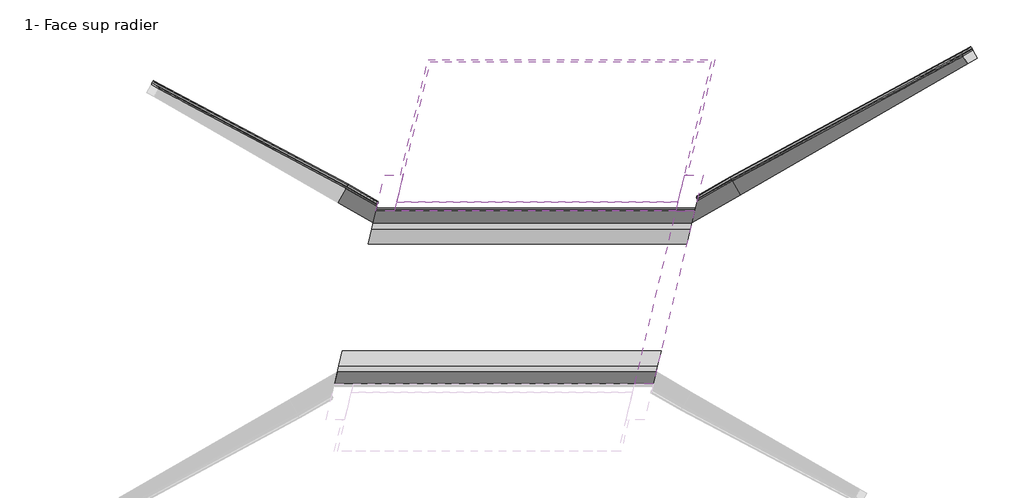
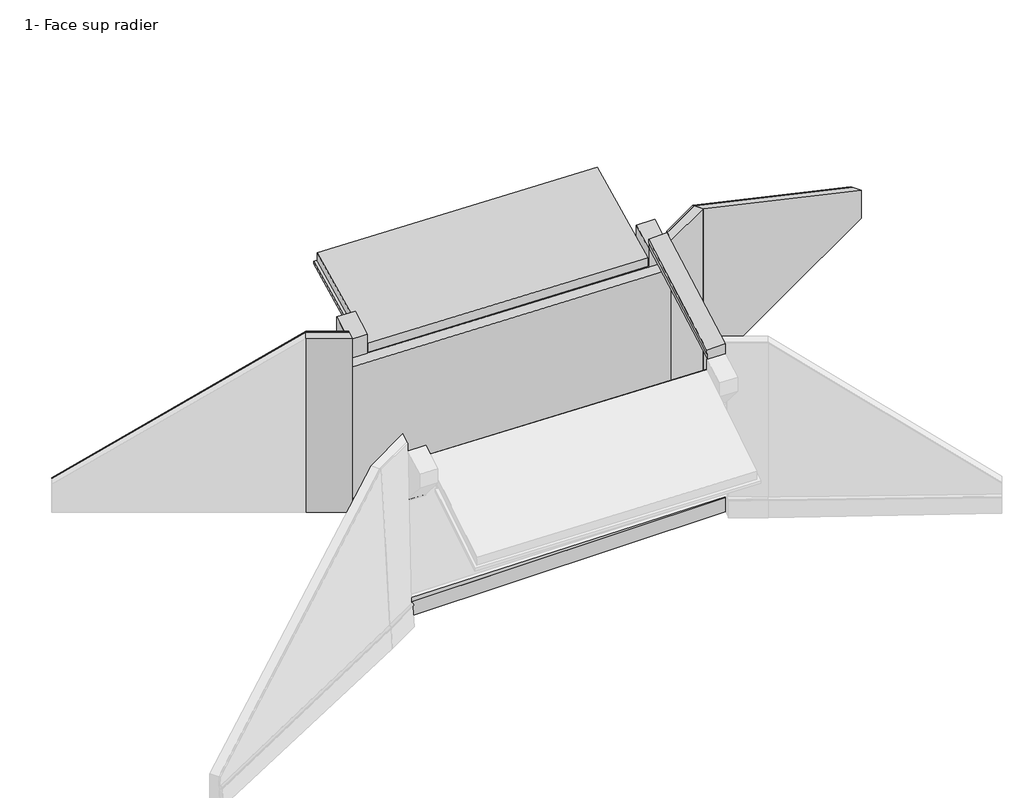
# One storey, part 2 of 2: 21 proxies.
"""IFC4 building model written with IfcOpenShell, lengths in millimetres."""

from ifc_helpers import new_model, si_unit, point, frame, frame_2d, origin, place, context, project, spatial, polyline, circle_curve, ellipse_curve, trimmed, segment, composite_curve, outline, extrude, faceted_brep, transform, mapped, element, save
from ifc_brep_helpers import plane_surface, cylinder_surface, spline_surface, advanced_brep
from components import generic_models_2247c664, generic_models_99b42db8, generic_models_a67ef40e, generic_models_269a9715

model = new_model("IFC4")

# Units and contexts
model_context = context("Model", 3, world=origin())
ifc_project = project(units=[si_unit("LENGTHUNIT", "METRE", prefix="MILLI")], contexts=[model_context])

# Site, building, storey
site = spatial("IfcSite", under=ifc_project)
building = spatial("IfcBuilding", under=site)
storey = spatial("IfcBuildingStorey", under=building, Name="1- Face sup radier", Elevation=700.0)

# Proxies
placement = place(None, origin())
element("IfcBuildingElementProxy", 1, Name="Mur avec fruit - 1 about biais : mur avec fruit - arase rampante ou horizontale - arase avec ou sans pente transversale - 1 about  biais", ObjectType="Mur avec fruit - 1 about biais : mur avec fruit - arase rampante ou horizontale - arase avec ou sans pente transversale - 1 about  biais", at=placement, inside=storey, context=model_context, shape_type="Brep", body=[
    faceted_brep([(7419.3379131, 3698.5704237, 6610.0), (7569.3365527, 3438.7620172, 6619.0), (7569.3365527, 3438.7620172, 700.0), (7271.3642551, 3954.8714167, 700.0), (6063.1513999, 2915.5852432, 6610.0), (5967.1847125, 2513.770406, 6619.0), (5967.1847125, 2513.770406, 700.0), (6157.8225371, 3311.9755801, 700.0)], [[[0, 1, 2, 3]], [[0, 4, 5, 1]], [[1, 5, 6, 2]], [[2, 6, 7, 3]], [[3, 7, 4, 0]], [[4, 7, 6, 5]]]),
])
element("IfcBuildingElementProxy", 2, Name="Mur avec fruit - abouts droits : mur avec fruit - arase rampante ou horizontale - arase avec ou sans pente transversale - abouts droits", ObjectType="Mur avec fruit - abouts droits : mur avec fruit - arase rampante ou horizontale - arase avec ou sans pente transversale - abouts droits", at=placement, inside=storey, context=model_context, shape_type="AdvancedBrep", body=[
    advanced_brep(
    [(15386.7957133, 8298.5287062, 1691.0), (15536.794353, 8038.7202997, 1700.0), (15536.794353, 8038.7202997, 700.0), (15361.7959401, 8341.8301073, 700.0), (7419.3379131, 3698.5704237, 6610.0), (7271.3642551, 3954.8714167, 700.0), (7569.3365527, 3438.7620172, 700.0), (7569.3365527, 3438.7620172, 6619.0)],
    [
        (0, 1),
        (1, 2),
        (2, 3),
        (3, 0),
        (4, 5),
        (5, 6),
        (6, 7),
        (7, 4),
        (7, 1),
        (0, 4),
        (6, 2),
        (5, 3),
    ],
    [
        plane_surface(frame((15455.5450898, 8179.4498532, 1197.75), z_axis=(0.8660280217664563, 0.49999546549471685, 0.0), x_axis=(0.4997706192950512, -0.8656385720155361, 0.02998650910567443))),
        plane_surface(frame((7457.3438184, 3632.7414687, 3657.25), z_axis=(-0.8660280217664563, -0.49999546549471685, 0.0), x_axis=(0.4997706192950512, -0.8656385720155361, 0.02998650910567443))),
        plane_surface(frame((7494.3372329, 3568.6662204, 6614.5), z_axis=(0.3949734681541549, 0.25857308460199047, 0.8815531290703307), x_axis=(-0.4997706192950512, 0.8656385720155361, -0.02998650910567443))),
        plane_surface(frame((7569.3365527, 3438.7620172, 3659.5), z_axis=(0.4999954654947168, -0.8660280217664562, 0.0), x_axis=(0.0, 0.0, 1.0))),
        plane_surface(frame((7420.3504039, 3696.8167169, 700.0), z_axis=(0.0, 0.0, -1.0000000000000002), x_axis=(0.4999954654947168, -0.8660280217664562, 0.0))),
        spline_surface(1, 1, [[(7419.3379131, 3698.5704237, 6610.0), (7271.3642551, 3954.8714167, 700.0)], [(15386.7957133, 8298.5287062, 1691.0), (15361.7959401, 8341.8301073, 700.0)]], [2, 2], [2, 2], [0.0, 1.0], [0.0, 1.0]),
    ],
    [
        (0, [[1, 2, 3, 4]]),
        (1, [[5, 6, 7, 8]]),
        (2, [[9, -1, 10, -8]]),
        (3, [[11, -2, -9, -7]]),
        (4, [[12, -3, -11, -6]]),
        (5, [[-10, -4, -12, -5]]),
    ],
),
])
element("IfcBuildingElementProxy", 3, Name="Mur avec fruit - 1 about biais : mur avec fruit - arase rampante ou horizontale - arase avec ou sans pente transversale - 1 about  biais", ObjectType="Mur avec fruit - 1 about biais : mur avec fruit - arase rampante ou horizontale - arase avec ou sans pente transversale - 1 about  biais", at=placement, inside=storey, context=model_context, shape_type="Brep", body=[
    faceted_brep([(-5786.377768, 3445.2353113, 6892.0), (-5631.354174, 3713.7472994, 700.0), (-5936.3764077, 3185.4269047, 700.0), (-5936.3764077, 3185.4269047, 6901.0), (-4767.2385783, 2510.4330263, 6901.0), (-4694.5302661, 2814.8644847, 6892.0), (-4767.2385783, 2510.4330263, 700.0), (-4619.3862255, 3129.4943968, 700.0)], [[[0, 1, 2, 3]], [[0, 3, 4, 5]], [[3, 2, 6, 4]], [[2, 1, 7, 6]], [[1, 0, 5, 7]], [[5, 4, 6, 7]]]),
])
element("IfcBuildingElementProxy", 4, Name="Mur drapeau 1 : mur drapeau 1", ObjectType="Mur drapeau 1 : mur drapeau 1", at=placement, inside=storey, context=model_context, shape_type="Brep", body=[
    faceted_brep([(5421.9915557, 2900.0, 6285.5168356), (5712.3661255, 4115.8053336, 6274.0339057), (5712.3661255, 4115.8053336, 5774.0339057), (5421.9915557, 2900.0, 4524.0339057), (6038.8666255, 2900.0, 6269.249243), (6038.8666255, 2900.0, 4507.7663131), (6329.2411952, 4115.8053336, 5757.7663131), (6329.2411952, 4115.8053336, 6257.7663131)], [[[0, 1, 2, 3]], [[4, 5, 6, 7]], [[5, 4, 0, 3]], [[6, 5, 3, 2]], [[7, 6, 2, 1]], [[4, 7, 1, 0]]]),
])
element("IfcBuildingElementProxy", 5, Name="Mur drapeau 4 : mur drapeau 4", ObjectType="Mur drapeau 4 : mur drapeau 4", at=placement, inside=storey, context=model_context, shape_type="Brep", body=[
    faceted_brep([(-4036.7595141, 2900.0, 6534.9532549), (-4036.7595141, 2900.0, 4773.1088122), (-3746.3849443, 4115.8053336, 6023.1088122), (-3746.3849443, 4115.8053336, 6523.1088122), (-4653.6345839, 2900.0, 6551.2208475), (-4363.2600141, 4115.8053336, 6539.3764048), (-4363.2600141, 4115.8053336, 6039.3764048), (-4653.6345839, 2900.0, 4789.3764048)], [[[0, 1, 2, 3]], [[4, 5, 6, 7]], [[4, 7, 1, 0]], [[7, 6, 2, 1]], [[6, 5, 3, 2]], [[5, 4, 0, 3]]]),
])
element("IfcBuildingElementProxy", 6, Name="Corbeau W : corbeau W", ObjectType="Corbeau W : corbeau W", at=placement, inside=storey, context=model_context, shape_type="Brep", body=[
    faceted_brep([(5473.6414889, 3200.0, 5314.0504808), (5401.9915557, 2900.0, 5015.8356628), (-4016.7595141, 2900.0, 5264.2172435), (-3945.1095809, 3200.0, 5562.4320614), (5473.6414889, 3200.0, 5614.1547769), (-3945.1095809, 3200.0, 5862.5363575), (5401.9915557, 2900.0, 5616.0442549), (-4016.7595141, 2900.0, 5864.4258356)], [[[0, 1, 2, 3]], [[4, 0, 3, 5]], [[6, 4, 5, 7]], [[1, 6, 7, 2]], [[1, 0, 4, 6]], [[3, 2, 7, 5]]]),
])
element("IfcBuildingElementProxy", 7, Name="Béton de propreté DT W : béton de propreté DT W", ObjectType="Béton de propreté DT W : béton de propreté DT W", at=placement, inside=storey, context=model_context, shape_type="Brep", body=[
    faceted_brep([(5473.6414889, 3200.0, 5633.606428), (5692.3661255, 4115.8053336, 5591.193499), (5795.1786371, 4115.8053336, 5588.4822336), (6720.5231434, 7990.2451206, 5409.0485335), (-2903.8529497, 7990.2451206, 5662.852645), (-3829.197456, 4115.8053336, 5842.2863451), (-3726.3849443, 4115.8053336, 5839.5750796), (-3945.1095809, 3200.0, 5881.9880086), (5692.3661255, 4115.8053336, 5491.0787378), (5473.6414889, 3200.0, 5533.4916668), (-3726.3849443, 4115.8053336, 5739.4603185), (-3945.1095809, 3200.0, 5781.8732475), (-3829.197456, 4115.8053336, 5742.1715839), (-2903.8529497, 7990.2451206, 5562.7378838), (6720.5231434, 7990.2451206, 5308.9337723), (5795.1786371, 4115.8053336, 5488.3674724)], [[[0, 1, 2, 3, 4, 5, 6, 7]], [[8, 1, 0, 9]], [[6, 10, 11, 7]], [[9, 0, 7, 11]], [[8, 9, 11, 10, 12, 13, 14, 15]], [[3, 14, 13, 4]], [[2, 15, 14, 3]], [[1, 8, 15, 2]], [[12, 5, 4, 13]], [[5, 12, 10, 6]]]),
])
element("IfcBuildingElementProxy", 8, Name="Complexe drainant M4 : complexe drainant M4", ObjectType="Complexe drainant M4 : complexe drainant M4", at=placement, inside=storey, context=model_context, shape_type="SolidModel", body=[
    faceted_brep([(-5786.377768, 3445.2353113, 6892.0), (-5761.3779948, 3488.5367124, 6892.0), (-5626.2831444, 3722.5306865, 1496.0), (-5651.2829176, 3679.2292854, 1496.0), (-4694.5302661, 2814.8644847, 6892.0), (-4682.4122141, 2865.603061, 6892.0), (-4617.0748655, 3139.172117, 1508.088526), (-4629.1947898, 3088.4257014, 1508.2428037)], [[[0, 1, 2, 3]], [[1, 0, 4, 5]], [[2, 1, 5, 6]], [[3, 2, 6, 7]], [[0, 3, 7, 4]], [[5, 4, 7, 6]]]),
    advanced_brep(
    [(-12194.9851291, 7145.2017559, 1691.0), (-12169.9853558, 7188.503157, 1691.0), (-12163.1993427, 7200.2570187, 1422.0), (-12188.199116, 7156.9556176, 1422.0), (-5786.377768, 3445.2353113, 6892.0), (-5651.2829176, 3679.2292854, 1496.0), (-5626.2831444, 3722.5306865, 1496.0), (-5761.3779948, 3488.5367124, 6892.0)],
    [
        (0, 1),
        (1, 2),
        (2, 3),
        (3, 0),
        (4, 5),
        (5, 6),
        (6, 7),
        (7, 4),
        (7, 1),
        (0, 4),
        (6, 2),
        (5, 3),
    ],
    [
        plane_surface(frame((-12179.0922359, 7172.7293873, 1556.5), z_axis=(-0.8660280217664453, 0.4999954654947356, 0.0), x_axis=(0.4999954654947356, 0.8660280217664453, 0.0))),
        plane_surface(frame((-5706.3304562, 3583.8829989, 4194.0), z_axis=(0.866028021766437, -0.49999546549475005, 0.0), x_axis=(0.49999546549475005, 0.866028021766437, 0.0))),
        plane_surface(frame((-5773.8778814, 3466.8860118, 6892.0), z_axis=(-0.4979830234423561, 0.2875071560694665, 0.8181396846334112), x_axis=(0.4999954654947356, 0.8660280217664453, 0.0))),
        spline_surface(1, 1, [[(-5761.3779948, 3488.5367124, 6892.0), (-12169.9853558, 7188.503157, 1691.0)], [(-5626.2831444, 3722.5306865, 1496.0), (-12163.1993427, 7200.2570187, 1422.0)]], [2, 2], [2, 2], [0.0, 1.0], [0.0, 1.0]),
        plane_surface(frame((-5638.783031, 3700.879986, 1496.0), z_axis=(0.008659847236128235, -0.004999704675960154, -0.9999500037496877), x_axis=(-0.4999954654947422, -0.8660280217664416, 0.0))),
        spline_surface(1, 1, [[(-5651.2829176, 3679.2292854, 1496.0), (-12188.199116, 7156.9556176, 1422.0)], [(-5786.377768, 3445.2353113, 6892.0), (-12194.9851291, 7145.2017559, 1691.0)]], [2, 2], [2, 2], [0.0, 1.0], [0.0, 1.0]),
    ],
    [
        (0, [[1, 2, 3, 4]]),
        (1, [[5, 6, 7, 8]]),
        (2, [[-8, 9, -1, 10]]),
        (3, [[-7, 11, -2, -9]]),
        (4, [[-6, 12, -3, -11]]),
        (5, [[-5, -10, -4, -12]]),
    ],
),
])
element("IfcBuildingElementProxy", 9, Name="Complexe drainant P W : complexe drainant P W", ObjectType="Complexe drainant P W : complexe drainant P W", at=placement, inside=storey, context=model_context, shape_type="SweptSolid", body=[
    extrude(outline(polyline([(4507.7663131, 6038.8666255), (4524.0339057, 5421.9915557), (5015.3082435, 5421.9915557), (5264.7446628, -4036.7595141), (4773.1088122, -4036.7595141), (4789.3764048, -4653.6345839), (1510.0, -4653.6345839), (1400.0, 6038.8666255), (4507.7663131, 6038.8666255)])), frame((0.0, 2900.0, 0.0), z_axis=(0.0, 1.0, 0.0), x_axis=(0.0, 0.0, 1.0)), (0.0, 0.0, 1.0), 50.0),
])
element("IfcBuildingElementProxy", 10, Name="Complexe drainant M1 : complexe drainant M1", ObjectType="Complexe drainant M1 : complexe drainant M1", at=placement, inside=storey, context=model_context, shape_type="SolidModel", body=[
    advanced_brep(
    [(7419.3379131, 3698.5704237, 6610.0), (7394.3381398, 3741.8718248, 6610.0), (7263.4152536, 3968.6396577, 1381.0), (7288.4150268, 3925.3382566, 1381.0), (15386.7957133, 8298.5287062, 1691.0), (15376.6545339, 8316.0939567, 1289.0), (15351.6547606, 8359.3953578, 1289.0), (15361.7959401, 8341.8301073, 1691.0)],
    [
        (0, 1),
        (1, 2),
        (2, 3),
        (3, 0),
        (4, 5),
        (5, 6),
        (6, 7),
        (7, 4),
        (7, 1),
        (0, 4),
        (6, 2),
        (5, 3),
    ],
    [
        plane_surface(frame((7341.3765833, 3833.6050407, 3995.5), z_axis=(-0.8660280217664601, -0.49999546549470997, 0.0), x_axis=(-0.49999546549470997, 0.8660280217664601, 0.0))),
        plane_surface(frame((15369.225237, 8328.962032, 1490.0), z_axis=(0.8660280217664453, 0.4999954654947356, 0.0), x_axis=(-0.4999954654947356, 0.8660280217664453, 0.0))),
        plane_surface(frame((15374.2958267, 8320.1794068, 1691.0), z_axis=(0.4083394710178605, 0.2357520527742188, 0.8818615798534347), x_axis=(-0.49999546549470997, 0.8660280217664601, 0.0))),
        spline_surface(1, 1, [[(15361.7959401, 8341.8301073, 1691.0), (7394.3381398, 3741.8718248, 6610.0)], [(15351.6547606, 8359.3953578, 1289.0), (7263.4152536, 3968.6396577, 1381.0)]], [2, 2], [2, 2], [0.0, 1.0], [0.0, 1.0]),
        plane_surface(frame((15364.1546472, 8337.7446573, 1289.0), z_axis=(-0.008659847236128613, -0.004999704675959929, -0.9999500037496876), x_axis=(0.4999954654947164, -0.8660280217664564, 0.0))),
        spline_surface(1, 1, [[(15376.6545339, 8316.0939567, 1289.0), (7288.4150268, 3925.3382566, 1381.0)], [(15386.7957133, 8298.5287062, 1691.0), (7419.3379131, 3698.5704237, 6610.0)]], [2, 2], [2, 2], [0.0, 1.0], [0.0, 1.0]),
    ],
    [
        (0, [[1, 2, 3, 4]]),
        (1, [[5, 6, 7, 8]]),
        (2, [[-8, 9, -1, 10]]),
        (3, [[-7, 11, -2, -9]]),
        (4, [[-6, 12, -3, -11]]),
        (5, [[-5, -10, -4, -12]]),
    ],
),
    faceted_brep([(7419.3379131, 3698.5704237, 6610.0), (7288.4150268, 3925.3382566, 1381.0), (7263.4152536, 3968.6396577, 1381.0), (7394.3381398, 3741.8718248, 6610.0), (6079.1458478, 2982.5543827, 6610.0), (6063.1513999, 2915.5852432, 6610.0), (6162.6990161, 3332.3935153, 1394.0573268), (6146.6967768, 3265.3917531, 1394.5437162)], [[[0, 1, 2, 3]], [[0, 3, 4, 5]], [[3, 2, 6, 4]], [[2, 1, 7, 6]], [[1, 0, 5, 7]], [[5, 4, 6, 7]]]),
])
element("IfcBuildingElementProxy", 11, Name="Drain P W : drain P W", ObjectType="Drain P W : drain P W", at=placement, inside=storey, context=model_context, shape_type="SweptSolid", body=[
    extrude(outline(composite_curve([segment(trimmed(circle_curve(frame_2d((-50.0, -50.0)), 48.0), [point((-50.0, -98.0))], [point((-50.0, -2.0))], False, "CARTESIAN"), True, "CONTINUOUS"), segment(trimmed(circle_curve(frame_2d((-50.0, -50.0)), 48.0), [point((-50.0, -2.0))], [point((-50.0, -98.0))], False, "CARTESIAN"), True, "CONTINUOUS")], self_intersect=False)), frame((6038.8666255, 3000.0, 1300.0), z_axis=(-0.9999470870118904, 0.0, 0.010287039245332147), x_axis=(0.0, 1.0, 0.0)), (0.0, 0.0, 1.0), 10693.0670115),
])
generic_models_shape = generic_models_2247c664(model_context)
element("IfcBuildingElementProxy", 12, Name="Gousset inférieur E : gousset inférieur E", ObjectType="Gousset inférieur E : gousset inférieur E", at=placement, inside=storey, context=model_context, shape_type="MappedRepresentation", body=[
    mapped(generic_models_shape, transform((0.0, 0.0, 0.0), x_axis=(1.0, 0.0, 0.0), y_axis=(0.0, 1.0, 0.0), z_axis=(0.0, 0.0, 1.0))),
])
element("IfcBuildingElementProxy", 13, Name="Gousset inférieur W : gousset inférieur W", ObjectType="Gousset inférieur W : gousset inférieur W", at=placement, inside=storey, context=model_context, shape_type="MappedRepresentation", body=[
    mapped(generic_models_shape, transform((0.0, 0.0, 0.0), x_axis=(-1.0, 0.0, 0.0), y_axis=(0.0, -1.0, 0.0), z_axis=(0.0, 0.0, 1.0))),
])
generic_models_2_shape = generic_models_99b42db8(model_context)
element("IfcBuildingElementProxy", 14, Name="Piédroit W : piédroit W", ObjectType="Piédroit W : piédroit W", at=placement, inside=storey, context=model_context, shape_type="MappedRepresentation", body=[
    mapped(generic_models_2_shape, transform((0.0, 0.0, 0.0), x_axis=(1.0, 0.0, 0.0), y_axis=(0.0, 1.0, 0.0), z_axis=(0.0, 0.0, 1.0))),
])
generic_models_3_shape = generic_models_a67ef40e(model_context)
element("IfcBuildingElementProxy", 15, Name="Piédroit E : piédroit E", ObjectType="Piédroit E : piédroit E", at=placement, inside=storey, context=model_context, shape_type="MappedRepresentation", body=[
    mapped(generic_models_3_shape, transform((0.0, 0.0, 0.0), x_axis=(1.0, 0.0, 0.0), y_axis=(0.0, 1.0, 0.0), z_axis=(0.0, 0.0, 1.0))),
])
generic_models_4_shape = generic_models_269a9715(model_context)
element("IfcBuildingElementProxy", 16, Name="Contre-corniche N : contre-corniche N", ObjectType="Contre-corniche N : contre-corniche N", at=placement, inside=storey, context=model_context, shape_type="MappedRepresentation", body=[
    mapped(generic_models_4_shape, transform((0.0, 0.0, 0.0), x_axis=(1.0, 0.0, 0.0), y_axis=(0.0, 1.0, 0.0), z_axis=(0.0, 0.0, 1.0))),
])
element("IfcBuildingElementProxy", 17, Name="Assise drain M1 : assise drain M1", ObjectType="Assise drain M1 : assise drain M1", at=placement, inside=storey, context=model_context, shape_type="SolidModel", body=[
    faceted_brep([(7285.9112424, 3929.6749908, 1281.0), (7271.3642551, 3954.8714167, 700.0), (7221.3647085, 4041.4742189, 700.0), (7235.9116959, 4016.277793, 1281.0), (6122.7006164, 3372.8092669, 1294.2055478), (6157.8225371, 3311.9755801, 1294.2055478), (6148.2994376, 3272.1021326, 1294.4950031), (6107.8229906, 3398.5783822, 700.0), (6157.8225371, 3311.9755801, 700.0)], [[[0, 1, 2, 3]], [[0, 3, 4, 5, 6]], [[3, 2, 7, 4]], [[2, 1, 8, 7]], [[1, 0, 6, 8]], [[6, 5, 8]], [[5, 4, 7, 8]]]),
    advanced_brep(
    [(7285.9112424, 3929.6749908, 1281.0), (7235.9116959, 4016.277793, 1281.0), (7221.3647085, 4041.4742189, 700.0), (7271.3642551, 3954.8714167, 700.0), (15374.1318524, 8320.463422, 1189.0), (15324.1323059, 8407.0662242, 1189.0), (15311.7963935, 8428.4329095, 700.0), (15361.7959401, 8341.8301073, 700.0)],
    [
        (0, 1),
        (1, 2),
        (2, 3),
        (3, 0),
        (4, 5),
        (5, 1),
        (0, 4),
        (5, 6),
        (6, 2),
        (6, 7),
        (7, 3),
        (7, 4),
    ],
    [
        plane_surface(frame((7253.6379755, 3985.5746049, 990.5), z_axis=(-0.866028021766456, -0.4999954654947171, 0.0), x_axis=(-0.4999954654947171, 0.866028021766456, 0.0))),
        plane_surface(frame((15349.1320791, 8363.7648231, 1189.0), z_axis=(0.008659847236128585, 0.004999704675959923, 0.9999500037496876), x_axis=(-0.4999954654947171, 0.866028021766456, 0.0))),
        spline_surface(1, 1, [[(15324.1323059, 8407.0662242, 1189.0), (7235.9116959, 4016.277793, 1281.0)], [(15311.7963935, 8428.4329095, 700.0), (7221.3647085, 4041.4742189, 700.0)]], [2, 2], [2, 2], [0.0, 1.0], [0.0, 1.0]),
        plane_surface(frame((15336.7961668, 8385.1315084, 700.0), z_axis=(0.0, 0.0, -1.0), x_axis=(0.49999546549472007, -0.8660280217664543, 0.0))),
        spline_surface(1, 1, [[(15361.7959401, 8341.8301073, 700.0), (7271.3642551, 3954.8714167, 700.0)], [(15374.1318524, 8320.463422, 1189.0), (7285.9112424, 3929.6749908, 1281.0)]], [2, 2], [2, 2], [0.0, 1.0], [0.0, 1.0]),
        plane_surface(frame((15455.5450898, 8179.4498532, 1197.75), z_axis=(0.8660280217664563, 0.49999546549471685, 0.0), x_axis=(0.4997706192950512, -0.8656385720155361, 0.02998650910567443))),
    ],
    [
        (0, [[1, 2, 3, 4]]),
        (1, [[5, 6, -1, 7]]),
        (2, [[8, 9, -2, -6]]),
        (3, [[10, 11, -3, -9]]),
        (4, [[12, -7, -4, -11]]),
        (5, [[-12, -10, -8, -5]]),
    ],
),
])
element("IfcBuildingElementProxy", 18, Name="Assise drain M4 : assise drain M4", ObjectType="Assise drain M4 : assise drain M4", at=placement, inside=storey, context=model_context, shape_type="SolidModel", body=[
    faceted_brep([(-5648.7793066, 3683.5657194, 1396.0), (-5598.7797601, 3770.1685215, 1396.0), (-5581.3546274, 3800.3501016, 700.0), (-5631.354174, 3713.7472994, 700.0), (-4627.9810358, 3093.5077189, 1408.2273535), (-4619.3862255, 3129.4943968, 1408.1179479), (-4587.1151979, 3185.3901321, 1408.1179479), (-4569.386679, 3216.097199, 700.0), (-4619.3862255, 3129.4943968, 700.0)], [[[0, 1, 2, 3]], [[1, 0, 4, 5, 6]], [[2, 1, 6, 7]], [[3, 2, 7, 8]], [[0, 3, 8, 4]], [[5, 8, 7, 6]], [[8, 5, 4]]]),
    advanced_brep(
    [(-12185.6764345, 7161.3250829, 1322.0), (-12135.676888, 7247.9278851, 1322.0), (-12119.9858093, 7275.1059592, 700.0), (-12169.9853558, 7188.503157, 700.0), (-5648.7793066, 3683.5657194, 1396.0), (-5631.354174, 3713.7472994, 700.0), (-5581.3546274, 3800.3501016, 700.0), (-5598.7797601, 3770.1685215, 1396.0)],
    [
        (0, 1),
        (1, 2),
        (2, 3),
        (3, 0),
        (4, 5),
        (5, 6),
        (6, 7),
        (7, 4),
        (7, 1),
        (0, 4),
        (6, 2),
        (5, 3),
    ],
    [
        plane_surface(frame((-12152.8311219, 7218.215521, 1011.0), z_axis=(-0.8660280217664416, 0.4999954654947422, 0.0), x_axis=(0.4999954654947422, 0.8660280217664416, 0.0))),
        plane_surface(frame((-5615.066967, 3741.9579105, 1048.0), z_axis=(0.8660280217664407, -0.49999546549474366, 0.0), x_axis=(0.49999546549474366, 0.8660280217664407, 0.0))),
        plane_surface(frame((-5623.7795333, 3726.8671205, 1396.0), z_axis=(-0.008659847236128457, 0.004999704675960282, 0.9999500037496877), x_axis=(0.4999954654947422, 0.8660280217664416, 0.0))),
        spline_surface(1, 1, [[(-5598.7797601, 3770.1685215, 1396.0), (-12135.676888, 7247.9278851, 1322.0)], [(-5581.3546274, 3800.3501016, 700.0), (-12119.9858093, 7275.1059592, 700.0)]], [2, 2], [2, 2], [0.0, 1.0], [0.0, 1.0]),
        plane_surface(frame((-5606.3544007, 3757.0487005, 700.0), z_axis=(0.0, 0.0, -1.0), x_axis=(-0.4999954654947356, -0.8660280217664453, 0.0))),
        spline_surface(1, 1, [[(-5631.354174, 3713.7472994, 700.0), (-12169.9853558, 7188.503157, 700.0)], [(-5648.7793066, 3683.5657194, 1396.0), (-12185.6764345, 7161.3250829, 1322.0)]], [2, 2], [2, 2], [0.0, 1.0], [0.0, 1.0]),
    ],
    [
        (0, [[1, 2, 3, 4]]),
        (1, [[5, 6, 7, 8]]),
        (2, [[-8, 9, -1, 10]]),
        (3, [[-7, 11, -2, -9]]),
        (4, [[-6, 12, -3, -11]]),
        (5, [[-5, -10, -4, -12]]),
    ],
),
])
element("IfcBuildingElementProxy", 19, Name="Dalle de transition W : dalle de transition W", ObjectType="Dalle de transition W : dalle de transition W", at=placement, inside=storey, context=model_context, shape_type="Brep", body=[
    faceted_brep([(6597.5912524, 7906.0047936, 5416.2164529), (5404.3798868, 2910.0, 5647.5922582), (-4014.371183, 2910.0, 5895.9738388), (-2821.1598174, 7906.0047936, 5664.5980335), (6600.4549597, 7917.9952051, 5716.0054345), (-2818.2961101, 7917.9952051, 5964.3870151), (5407.2435941, 2921.9904115, 5947.3812398), (-4011.5074757, 2921.9904115, 6195.7628204)], [[[0, 1, 2, 3]], [[4, 0, 3, 5]], [[6, 4, 5, 7]], [[1, 6, 7, 2]], [[1, 0, 4, 6]], [[3, 2, 7, 5]]]),
])
element("IfcBuildingElementProxy", 20, Name="Drain M1 : drain M1", ObjectType="Drain M1 : drain M1", at=placement, inside=storey, context=model_context, shape_type="AdvancedBrep", body=[
    advanced_brep(
    [(6148.7528358, 3272.3438145, 1344.4923662), (6098.7087642, 3358.9208952, 1344.4932421), (7286.3585912, 3929.913176, 1330.9974349), (7237.4729268, 4017.1598498, 1330.984569), (15374.5730603, 8320.6982735, 1238.9975047), (15326.8633086, 8408.5833058, 1238.9712633)],
    [
        (0, 1, circle_curve(frame((6123.7308, 3315.6323548, 1344.4928042), z_axis=(-0.8657251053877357, -0.5004144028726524, 0.010269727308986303), x_axis=(-0.5004407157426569, 0.8657708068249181, 8.758289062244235e-06)), 50.0)),
        (1, 0, circle_curve(frame((6123.7308, 3315.6323548, 1344.4928042), z_axis=(-0.8657251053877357, -0.5004144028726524, 0.010269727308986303), x_axis=(-0.5004407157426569, 0.8657708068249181, 8.758289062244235e-06)), 50.0)),
        (0, 2),
        (2, 3, ellipse_curve(frame((7261.915759, 3973.5365129, 1330.9910019), z_axis=(-0.8723444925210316, -0.48878665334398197, 0.010133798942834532), x_axis=(0.4888766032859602, -0.8722930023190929, 0.010226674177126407)), 50.0044764, 50.0)),
        (3, 1),
        (3, 2, ellipse_curve(frame((7261.915759, 3973.5365129, 1330.9910019), z_axis=(-0.8723444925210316, -0.48878665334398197, 0.010133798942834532), x_axis=(0.4888766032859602, -0.8722930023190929, 0.010226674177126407)), 50.0044764, 50.0)),
        (4, 5, circle_curve(frame((15350.7181845, 8364.6407897, 1238.984384), z_axis=(0.8788076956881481, 0.477071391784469, -0.009996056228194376), x_axis=(-0.47709751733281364, 0.8788503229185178, -0.0002624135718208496)), 50.0)),
        (5, 4, circle_curve(frame((15350.7181845, 8364.6407897, 1238.984384), z_axis=(0.8788076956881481, 0.477071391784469, -0.009996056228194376), x_axis=(-0.47709751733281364, 0.8788503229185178, -0.0002624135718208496)), 50.0)),
        (2, 4),
        (5, 3),
    ],
    [
        plane_surface(frame((6148.2994376, 3272.1021326, 1294.4950031), z_axis=(-0.8657251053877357, -0.5004144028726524, 0.010269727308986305), x_axis=(0.008895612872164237, 0.005131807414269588, 0.9999472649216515))),
        cylinder_surface(frame((6123.7308, 3315.6323548, 1344.4928042), z_axis=(-0.8657251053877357, -0.5004144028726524, 0.010269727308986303), x_axis=(-0.5004407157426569, 0.8657708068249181, 8.758289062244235e-06)), 50.0),
        plane_surface(frame((15374.1318524, 8320.463422, 1189.0), z_axis=(0.8788076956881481, 0.477071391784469, -0.009996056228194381), x_axis=(0.008659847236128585, 0.004999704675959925, 0.9999500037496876))),
        cylinder_surface(frame((7262.4975745, 3973.8523585, 1330.984384), z_axis=(-0.8788076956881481, -0.477071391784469, 0.009996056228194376), x_axis=(-0.47709751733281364, 0.8788503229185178, -0.0002624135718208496)), 50.0),
    ],
    [
        (0, [[1, 2]]),
        (1, [[-1, 3, 4, 5]]),
        (1, [[-2, -5, 6, -3]]),
        (2, [[7, 8]]),
        (3, [[-4, 9, -8, 10]]),
        (3, [[-6, -10, -7, -9]]),
    ],
),
])
element("IfcBuildingElementProxy", 21, Name="Drain M4 : drain M4", ObjectType="Drain M4 : drain M4", at=placement, inside=storey, context=model_context, shape_type="AdvancedBrep", body=[
    advanced_brep(
    [(-12186.1094269, 7161.5750681, 1371.9975002), (-12139.1406009, 7249.8582952, 1371.9628512), (-5649.2204746, 3683.8200542, 1445.9974076), (-5600.6988002, 3771.277135, 1445.9803375), (-4628.4302214, 3093.7666882, 1458.2246651), (-4578.3857217, 3180.3435214, 1458.2258357)],
    [
        (0, 1, circle_curve(frame((-12162.6250139, 7205.7166817, 1371.9801757), z_axis=(-0.8827898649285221, 0.4696617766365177, -0.0099934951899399), x_axis=(0.4696882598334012, 0.8828322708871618, -0.0003464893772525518)), 50.0)),
        (1, 0, circle_curve(frame((-12162.6250139, 7205.7166817, 1371.9801757), z_axis=(-0.8827898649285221, 0.4696617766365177, -0.0099934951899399), x_axis=(0.4696882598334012, 0.8828322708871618, -0.0003464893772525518)), 50.0)),
        (0, 2),
        (2, 3, ellipse_curve(frame((-5624.9596374, 3727.5485946, 1445.9888726), z_axis=(-0.8743910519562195, 0.48511502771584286, -0.010183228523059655), x_axis=(-0.48520768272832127, -0.8743334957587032, 0.010697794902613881)), 50.0077357, 50.0)),
        (3, 1),
        (3, 2, ellipse_curve(frame((-5624.9596374, 3727.5485946, 1445.9888726), z_axis=(-0.8743910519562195, 0.48511502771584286, -0.010183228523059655), x_axis=(-0.48520768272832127, -0.8743334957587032, 0.010697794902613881)), 50.0077357, 50.0)),
        (4, 5, circle_curve(frame((-4603.4079715, 3137.0551048, 1458.2252504), z_axis=(0.8657217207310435, -0.5004181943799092, 0.010369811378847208), x_axis=(0.500444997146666, 0.8657683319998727, 1.1706059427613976e-05)), 50.0)),
        (5, 4, circle_curve(frame((-4603.4079715, 3137.0551048, 1458.2252504), z_axis=(0.8657217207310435, -0.5004181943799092, 0.010369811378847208), x_axis=(0.500444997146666, 0.8657683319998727, 1.1706059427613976e-05)), 50.0)),
        (2, 4),
        (5, 3),
    ],
    [
        plane_surface(frame((-12185.6764345, 7161.3250829, 1322.0), z_axis=(-0.8827898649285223, 0.4696617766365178, -0.0099934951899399), x_axis=(-0.008659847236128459, 0.004999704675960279, 0.9999500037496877))),
        cylinder_surface(frame((-12162.6250139, 7205.7166817, 1371.9801757), z_axis=(-0.8827898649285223, 0.4696617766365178, -0.009993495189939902), x_axis=(0.4696882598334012, 0.8828322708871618, -0.0003464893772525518)), 50.0),
        plane_surface(frame((-4627.9810358, 3093.5077189, 1408.2273535), z_axis=(0.8657217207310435, -0.5004181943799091, 0.010369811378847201), x_axis=(-0.008983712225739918, 0.005179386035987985, 0.9999462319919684))),
        cylinder_surface(frame((-5624.2062424, 3727.1131053, 1445.9978969), z_axis=(-0.8657217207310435, 0.5004181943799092, -0.010369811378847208), x_axis=(0.500444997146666, 0.8657683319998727, 1.1706059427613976e-05)), 50.0),
    ],
    [
        (0, [[1, 2]]),
        (1, [[-1, 3, 4, 5]]),
        (1, [[-2, -5, 6, -3]]),
        (2, [[7, 8]]),
        (3, [[-4, 9, -8, 10]]),
        (3, [[-6, -10, -7, -9]]),
    ],
),
])

save(model, "model.ifc")
